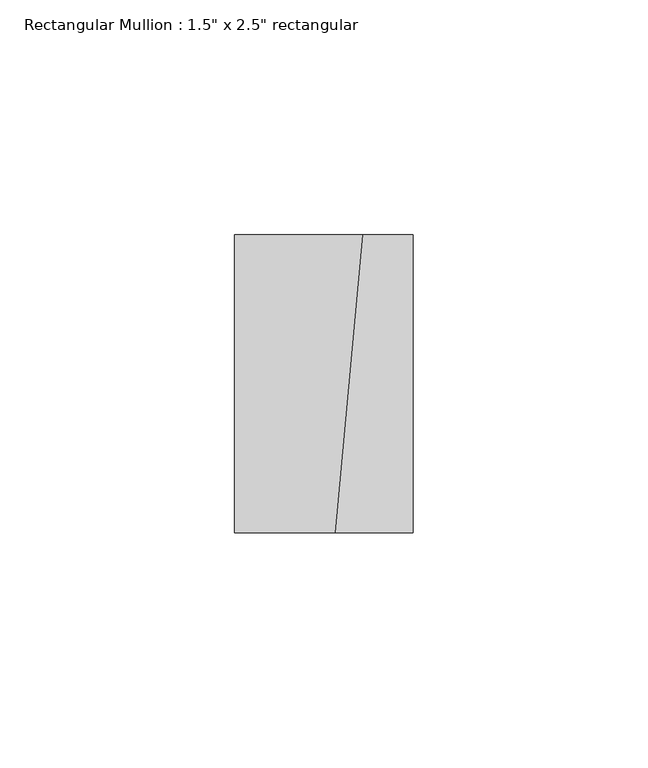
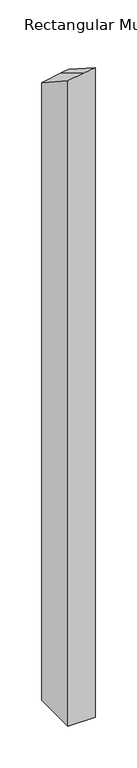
"""IFC4 building model written with IfcOpenShell, lengths in millimetres: member geometry."""

import ifcopenshell
import ifcopenshell.guid

model = None  # the IFC model being written
_history = None  # IfcOwnerHistory: only IFC2X3 demands one
_inside = {}  # id of a spatial element -> (the spatial element, [elements in it])
_under = {}  # id of a project, library or spatial element -> (it, [spatial elements below it])
_declared = {}  # id of a project -> (the project, [libraries it declares])
_typed = {}  # id of a type object -> (the type object, [elements of that type])
_made_of = {}  # id of a material, layer set ... -> (it, [elements and type objects made of it])


def new_model(schema):
    """Start an empty IFC model of exactly this schema.

    Asked for "IFC4X3", IfcOpenShell would pick the latest addendum, in which some entities
    have other attributes; the version numbers below select the first issue.
    IFC2X3 requires an IfcOwnerHistory on every rooted entity: one is made here for all.
    """
    global model, _history
    if schema == "IFC4X3":
        model = ifcopenshell.file(schema_version=(4, 3, 0, 0))
    else:
        model = ifcopenshell.file(schema=schema)
    _inside.clear()
    _under.clear()
    _declared.clear()
    _typed.clear()
    _made_of.clear()
    _history = None
    if model.schema == "IFC2X3":
        org = make("IfcOrganization", Name="unknown")
        user = make(
            "IfcPersonAndOrganization",
            ThePerson=make("IfcPerson", FamilyName="unknown"),
            TheOrganization=org,
        )
        app = make(
            "IfcApplication",
            ApplicationDeveloper=org,
            Version="unknown",
            ApplicationFullName="unknown",
            ApplicationIdentifier="unknown",
        )
        _history = make(
            "IfcOwnerHistory",
            OwningUser=user,
            OwningApplication=app,
            ChangeAction="ADDED",
            CreationDate=0,
        )
    return model


def make(cls, **values):
    """One entity of the class cls with the attributes given. An attribute that is None is left unset."""
    return model.create_entity(
        cls, **{name: value for name, value in values.items() if value is not None}
    )


def rooted(cls, **values):
    """An entity with a GlobalId (a new one), such as an element, a storey or a relation."""
    return make(cls, GlobalId=ifcopenshell.guid.new(), OwnerHistory=_history, **values)


def si_unit(unit_type, name, prefix=None):
    """IfcSIUnit, for example si_unit("LENGTHUNIT", "METRE", prefix="MILLI")."""
    return make("IfcSIUnit", UnitType=unit_type, Prefix=prefix, Name=name)


def assignment(units):
    """IfcUnitAssignment: the units of a project."""
    return None if units is None else make("IfcUnitAssignment", Units=units)


def point(xyz):
    """IfcCartesianPoint."""
    return None if xyz is None else make("IfcCartesianPoint", Coordinates=xyz)


def direction(xyz):
    """IfcDirection."""
    return None if xyz is None else make("IfcDirection", DirectionRatios=xyz)


def frame(location, z_axis=None, x_axis=None):
    """IfcAxis2Placement3D, a coordinate frame: its origin and axes. An axis left out is left unset."""
    return make(
        "IfcAxis2Placement3D",
        Location=point(location),
        Axis=direction(z_axis),
        RefDirection=direction(x_axis),
    )


def origin():
    """The frame at (0, 0, 0) with its axes left unset."""
    return frame((0.0, 0.0, 0.0))


def place(relative_to, where):
    """IfcLocalPlacement: puts the frame where relative to a parent placement (None: the world)."""
    return make(
        "IfcLocalPlacement", PlacementRelTo=relative_to, RelativePlacement=where
    )


def context(
    kind, dimensions, precision=None, world=None, true_north=None, identifier=None
):
    """IfcGeometricRepresentationContext, for example the 3D "Model" context."""
    return make(
        "IfcGeometricRepresentationContext",
        ContextIdentifier=identifier,
        ContextType=kind,
        CoordinateSpaceDimension=dimensions,
        Precision=precision,
        WorldCoordinateSystem=world,
        TrueNorth=true_north,
    )


def project(units=None, contexts=None):
    """IfcProject with its units and contexts."""
    return rooted(
        "IfcProject",
        Name="project",
        RepresentationContexts=contexts,
        UnitsInContext=assignment(units),
    )


def spatial(cls, under=None, at=None, **own):
    """A site, building, storey or space (cls), placed at a placement, below another one or the project."""
    s = rooted(cls, ObjectPlacement=at, **own)
    if under is not None:
        _under.setdefault(under.id(), (under, []))[1].append(s)
    return s


def faces_of(points, faces, orient=None, outer=None):
    """IfcFace entities. A face is a list of loops; a loop is a list of indices into points, from 0.

    orient and outer hold one flag for each loop. By default every Orientation is true, the
    first loop of a face is its IfcFaceOuterBound and the others are IfcFaceBound.
    """
    made = []
    for i, loops in enumerate(faces):
        bounds = []
        for j, loop in enumerate(loops):
            is_outer = j == 0 if outer is None else outer[i][j]
            bounds.append(
                make(
                    "IfcFaceOuterBound" if is_outer else "IfcFaceBound",
                    Bound=make("IfcPolyLoop", Polygon=[points[k] for k in loop]),
                    Orientation=True if orient is None else orient[i][j],
                )
            )
        made.append(make("IfcFace", Bounds=bounds))
    return made


def faceted_brep(points, faces, orient=None, outer=None, voids=None):
    """IfcFacetedBrep: a solid bounded by flat faces; with voids (closed shells), ...WithVoids."""
    shared = [point(p) for p in points]
    hull = make("IfcClosedShell", CfsFaces=faces_of(shared, faces, orient, outer))
    if voids is None:
        return make("IfcFacetedBrep", Outer=hull)
    return make(
        "IfcFacetedBrepWithVoids",
        Outer=hull,
        Voids=[
            make(cls, CfsFaces=faces_of(shared, fs, o, b)) for cls, fs, o, b in voids
        ],
    )


def shape(context_of_items, identifier, shape_type, items):
    """IfcShapeRepresentation: the items that make up one representation, for example the "Body"."""
    return make(
        "IfcShapeRepresentation",
        ContextOfItems=context_of_items,
        RepresentationIdentifier=identifier,
        RepresentationType=shape_type,
        Items=items,
    )


def source(mapping_origin, context_of_items, identifier, shape_type, items):
    """IfcRepresentationMap: a shape defined once, which mapped items show again and again."""
    return make(
        "IfcRepresentationMap",
        MappingOrigin=mapping_origin,
        MappedRepresentation=shape(context_of_items, identifier, shape_type, items),
    )


def transform(
    local_origin,
    x_axis=None,
    y_axis=None,
    z_axis=None,
    scale=None,
    scale2=None,
    scale3=None,
    uniform=True,
):
    """IfcCartesianTransformationOperator3D, or its non-uniform kind. x_axis, y_axis, z_axis: its Axis1, 2, 3."""
    if uniform:
        return make(
            "IfcCartesianTransformationOperator3D",
            Axis1=direction(x_axis),
            Axis2=direction(y_axis),
            LocalOrigin=point(local_origin),
            Scale=scale,
            Axis3=direction(z_axis),
        )
    return make(
        "IfcCartesianTransformationOperator3DnonUniform",
        Axis1=direction(x_axis),
        Axis2=direction(y_axis),
        LocalOrigin=point(local_origin),
        Scale=scale,
        Axis3=direction(z_axis),
        Scale2=scale2,
        Scale3=scale3,
    )


def mapped(mapping_source, mapping_target):
    """IfcMappedItem: shows the shape of a source again, moved by a transform."""
    return make(
        "IfcMappedItem", MappingSource=mapping_source, MappingTarget=mapping_target
    )


def made_of(thing, what):
    """Note that an element or type object is made of a material, layer set ...; save() writes the relation."""
    if what is not None:
        _made_of.setdefault(what.id(), (what, []))[1].append(thing)
    return thing


def element(
    cls,
    number,
    at=None,
    inside=None,
    cuts=None,
    type_object=None,
    material=None,
    context=None,
    identifier="Body",
    shape_type=None,
    held_by="IfcProductDefinitionShape",
    body=None,
    shapes=None,
    **own,
):
    """One element of the class cls, such as IfcWall. Its Tag is "e" and its number.

    at: its placement. inside: the storey or other place that contains it. cuts: it is an
    opening in that element (IfcRelVoidsElement). A single representation is given by context,
    identifier, shape_type and body (its items); several are given by shapes. held_by: the class
    of the entity that holds the representations. save() writes the other relations.
    """
    e = rooted(cls, Tag="e%d" % number, ObjectPlacement=at, **own)
    if body is not None:
        shapes = [shape(context, identifier, shape_type, body)]
    if shapes is not None:
        e.Representation = make(held_by, Representations=shapes)
    if inside is not None:
        _inside.setdefault(inside.id(), (inside, []))[1].append(e)
    if cuts is not None:
        rooted(
            "IfcRelVoidsElement", RelatingBuildingElement=cuts, RelatedOpeningElement=e
        )
    if type_object is not None:
        _typed.setdefault(type_object.id(), (type_object, []))[1].append(e)
    return made_of(e, material)


def aggregate(whole, parts):
    """IfcRelAggregates: a whole, such as a stair, and the parts it consists of."""
    return rooted("IfcRelAggregates", RelatingObject=whole, RelatedObjects=parts)


def save(model, path):
    """Write the relations noted so far, then the file.

    IfcRelAggregates (storeys below a building ...), IfcRelContainedInSpatialStructure (elements
    in a storey), IfcRelDefinesByType, IfcRelAssociatesMaterial and IfcRelDeclares: one each for
    every whole, place, type object, material and project.
    """
    for whole, parts in _under.values():
        aggregate(whole, parts)
    for where, things in _inside.values():
        rooted(
            "IfcRelContainedInSpatialStructure",
            RelatedElements=things,
            RelatingStructure=where,
        )
    for kind, things in _typed.values():
        rooted("IfcRelDefinesByType", RelatedObjects=things, RelatingType=kind)
    for what, things in _made_of.values():
        rooted("IfcRelAssociatesMaterial", RelatedObjects=things, RelatingMaterial=what)
    for by, libraries in _declared.values():
        rooted("IfcRelDeclares", RelatingContext=by, RelatedDefinitions=libraries)
    model.write(path)


def member_8907424b(model_context):
    return source(origin(), model_context, "Body", "Brep", [
        faceted_brep([(19.05, 31.75, -969.9545261), (19.05, -31.75, -969.9545261), (-19.05, -31.75, -969.9545261), (-19.05, 31.75, -969.9545261), (-19.05, 31.75, -62.1633469), (8.3262494, 31.75, -57.5350452), (19.05, 31.75, -56.2424419), (-19.05, -31.75, -20.8118819), (19.05, -31.75, -15.1744333), (2.4849392, -31.75, -17.1711277)], [[[0, 1, 2, 3]], [[4, 5, 6, 0, 3]], [[7, 4, 3, 2]], [[8, 9, 7, 2, 1]], [[6, 8, 1, 0]], [[6, 5, 9, 8]], [[5, 4, 7, 9]]]),
    ])


if __name__ == "__main__":
    model = new_model("IFC4")
    model_context = context("Model", 3, world=origin())
    ifc_project = project(units=[si_unit("LENGTHUNIT", "METRE", prefix="MILLI")], contexts=[model_context])
    site = spatial("IfcSite", under=ifc_project)
    building = spatial("IfcBuilding", under=site)
    placement = place(None, origin())
    member_shape = member_8907424b(model_context)
    element("IfcMember", 1, ObjectType="Rectangular Mullion : 1.5\" x 2.5\" rectangular", at=placement, inside=building, context=model_context, shape_type="MappedRepresentation", body=[
        mapped(member_shape, transform((0.0, 0.0, 0.0), x_axis=(1.0, 0.0, 0.0), y_axis=(0.0, 1.0, 0.0), z_axis=(0.0, 0.0, 1.0))),
    ])
    save(model, "model.ifc")
